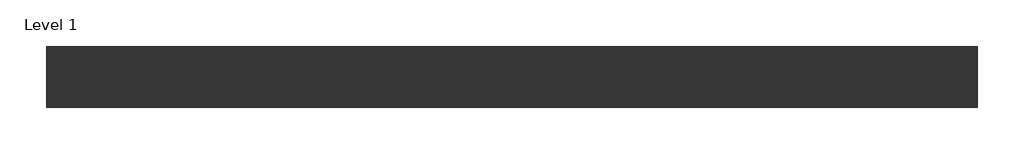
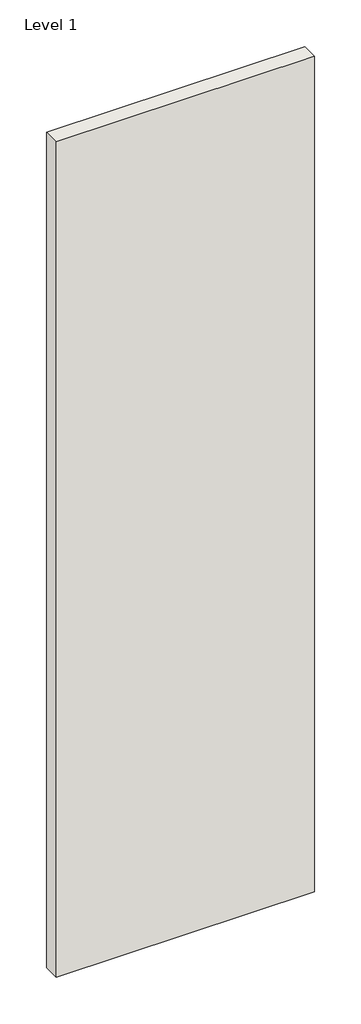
# One storey: 1 wall.
"""IFC4 building model written with IfcOpenShell, lengths in millimetres."""

from ifc_helpers import new_model, si_unit, origin, origin_with_axes, place, context, project, spatial, polyline, outline, extrude, element, save

model = new_model("IFC4")

# Units and contexts
model_context = context("Model", 3, world=origin())
ifc_project = project(units=[si_unit("LENGTHUNIT", "METRE", prefix="MILLI")], contexts=[model_context])

# Site, building, storey
site = spatial("IfcSite", under=ifc_project)
building = spatial("IfcBuilding", under=site)
storey = spatial("IfcBuildingStorey", under=building, Name="Level 1", Elevation=0.0)

# Wall
placement = place(None, origin())
element("IfcWall", 1, ObjectType="Trasdosado Protección contra incendios Placo® PPF 78/600 - EI 60", at=placement, inside=storey, context=model_context, shape_type="SweptSolid", body=[
    extrude(outline(polyline([(-28474.0881276, -63968.8567462), (-29674.0881276, -63968.8567462), (-29674.0881276, -63890.8567462), (-28474.0881276, -63890.8567462), (-28474.0881276, -63968.8567462)])), origin_with_axes(), (0.0, 0.0, 1.0), 4100.0),
])

save(model, "model.ifc")
